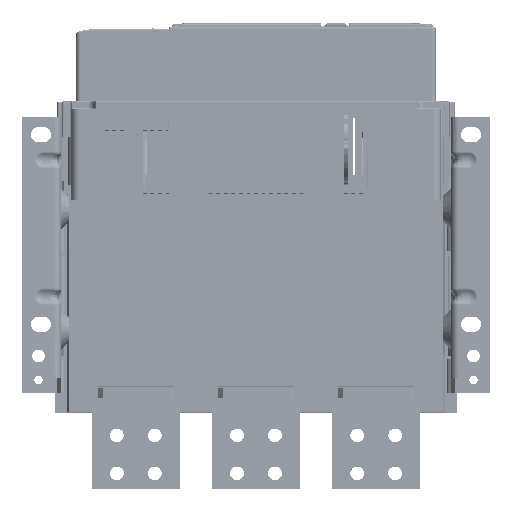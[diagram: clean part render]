
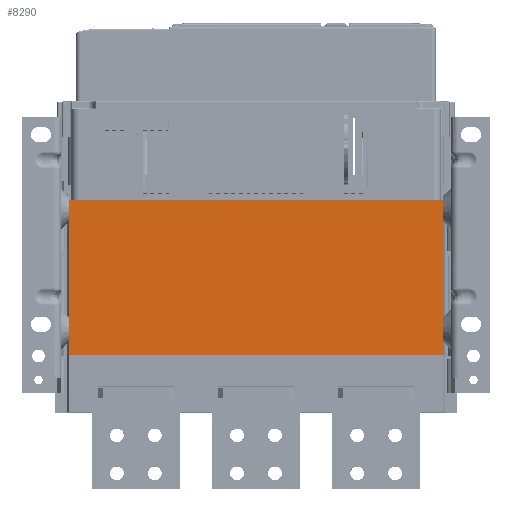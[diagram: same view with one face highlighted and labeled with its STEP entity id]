
A CAD part, top view. The second image highlights one B-rep face of the part: STEP entity #8290.
In plain terms, the highlighted planar face has unit normal (0, 0, 1).
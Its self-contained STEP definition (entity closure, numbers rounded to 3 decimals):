
#376=DIRECTION('',(1.,0.,0.));
#377=VECTOR('',#376,296.);
#378=CARTESIAN_POINT('',(-148.,123.,150.));
#379=LINE('',#378,#377);
#884=DIRECTION('',(1.,0.,0.));
#885=VECTOR('',#884,296.);
#886=CARTESIAN_POINT('',(-148.,0.,150.));
#887=LINE('',#886,#885);
#2592=DIRECTION('',(0.,1.,0.));
#2593=VECTOR('',#2592,123.);
#2594=CARTESIAN_POINT('',(148.,0.,150.));
#2595=LINE('',#2594,#2593);
#2635=DIRECTION('',(0.,1.,0.));
#2636=VECTOR('',#2635,123.);
#2637=CARTESIAN_POINT('',(-148.,0.,150.));
#2638=LINE('',#2637,#2636);
#5007=CARTESIAN_POINT('',(-148.,0.,150.));
#5008=VERTEX_POINT('',#5007);
#5009=CARTESIAN_POINT('',(148.,0.,150.));
#5010=VERTEX_POINT('',#5009);
#5023=CARTESIAN_POINT('',(-148.,123.,150.));
#5024=CARTESIAN_POINT('',(148.,123.,150.));
#5025=VERTEX_POINT('',#5023);
#5026=VERTEX_POINT('',#5024);
#8278=CARTESIAN_POINT('',(-148.,0.,150.));
#8279=DIRECTION('',(0.,0.,1.));
#8280=DIRECTION('',(1.,0.,0.));
#8281=AXIS2_PLACEMENT_3D('',#8278,#8279,#8280);
#8282=PLANE('',#8281);
#8283=ORIENTED_EDGE('',*,*,#6273,.F.);
#8285=ORIENTED_EDGE('',*,*,#8284,.T.);
#8286=ORIENTED_EDGE('',*,*,#6050,.T.);
#8287=ORIENTED_EDGE('',*,*,#8239,.F.);
#8288=EDGE_LOOP('',(#8283,#8285,#8286,#8287));
#8289=FACE_OUTER_BOUND('',#8288,.F.);
#8290=ADVANCED_FACE('',(#8289),#8282,.T.);
#6050=EDGE_CURVE('',#5025,#5026,#379,.T.);
#6273=EDGE_CURVE('',#5008,#5010,#887,.T.);
#8239=EDGE_CURVE('',#5010,#5026,#2595,.T.);
#8284=EDGE_CURVE('',#5008,#5025,#2638,.T.);
